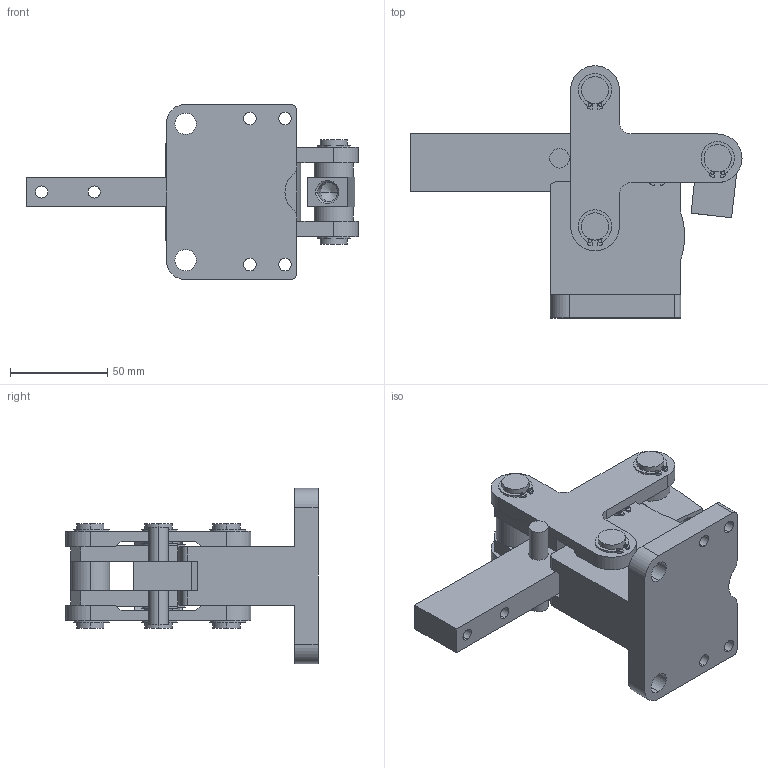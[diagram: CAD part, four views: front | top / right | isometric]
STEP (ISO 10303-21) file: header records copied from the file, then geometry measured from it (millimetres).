
FILE_DESCRIPTION (( 'STEP AP203' ), '1' );
FILE_NAME ('46200.W0004.step', '2016-05-09T09:56:58', ( 'User' ), ( '' ), 'SwSTEP 2.0', 'SolidWorks 2009', '' );
FILE_SCHEMA (( 'CONFIG_CONTROL_DESIGN' ));
Length unit declared in the file: millimetre
Products named in the file (1): 46200.W0004
Bounding box: 170.5 x 129.5 x 90 mm (x, y, z)
Volume: 333371.9 mm3; surface area: 87002 mm2
Topology: 5 solids, 5 shells, 393 faces, 1015 edges, 671 vertices
Faces by surface type: cylinder 215, plane 174, cone 4
Entity records: 12274 total; most frequent: DIRECTION 2255, CARTESIAN_POINT 2078, ORIENTED_EDGE 2026, EDGE_CURVE 1013, AXIS2_PLACEMENT_3D 848, VERTEX_POINT 671, VECTOR 559, LINE 559
